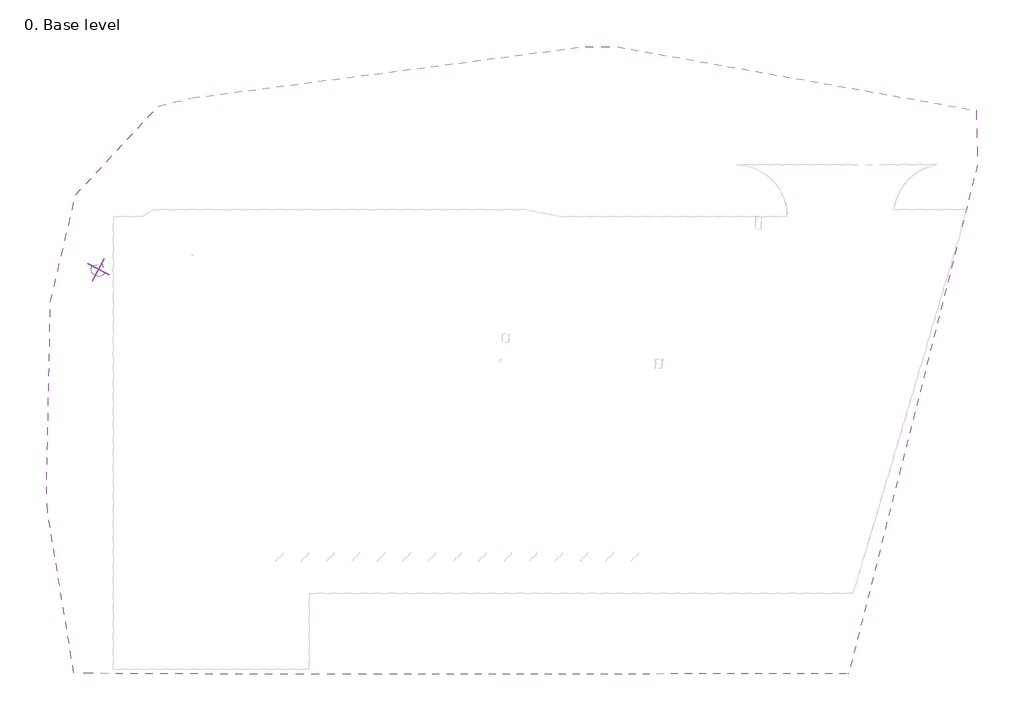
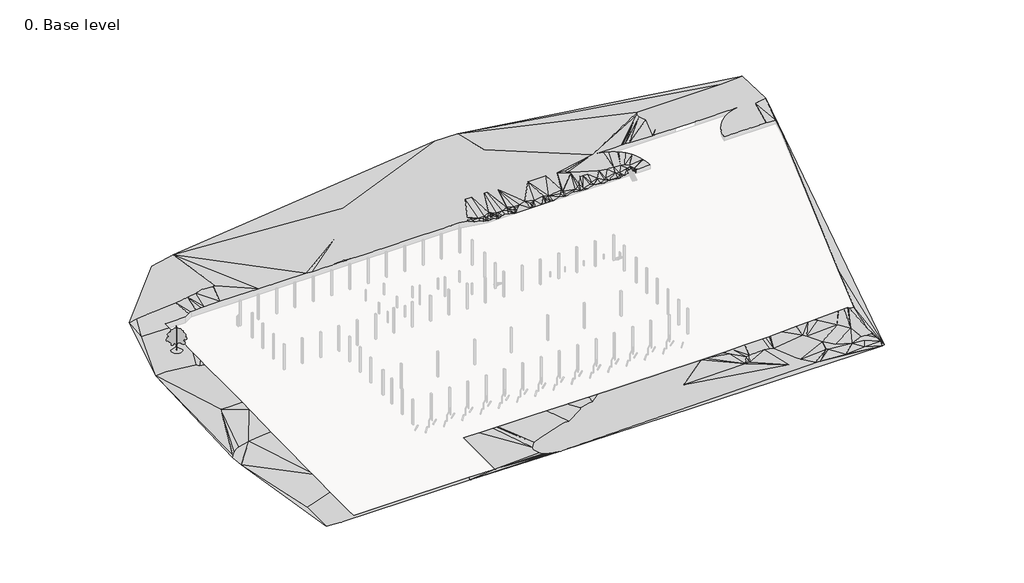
# One storey, part 2 of 3: 1 geographic element, 1 proxy.
"""IFC4 building model written with IfcOpenShell, lengths in millimetres."""

from ifc_helpers import new_model, si_unit, origin, place, context, project, spatial, triangles, transform, mapped, element, save
from components import m_rpc_tree_deciduous_largetooth_aspen_7_6_meters_7a32e79d

model = new_model("IFC4")

# Units and contexts
model_context = context("Model", 3, world=origin())
ifc_project = project(units=[si_unit("LENGTHUNIT", "METRE", prefix="MILLI")], contexts=[model_context])

# Site, building, storey
site = spatial("IfcSite", under=ifc_project)
building = spatial("IfcBuilding", under=site)
storey = spatial("IfcBuildingStorey", under=building, Name="0. Base level", Elevation=0.0)

# Proxy
placement = place(None, origin())
element("IfcBuildingElementProxy", 1, Name="Building Element Proxy", at=placement, inside=storey, context=model_context, shape_type="Tessellation", body=[
    triangles([(-188177.7789551, -19890.58125, 43500.0006226), (-187905.1258301, -24262.0307007, 43500.0006226), (-181745.4459961, -62021.2282471, 42999.998584), (-177193.2587402, -62221.3462646, 42999.998584), (-134925.3643066, -62432.1938599, 42999.998584), (-105429.6112061, -62423.9943604, 42500.0011963), (449.0099113, -62296.6858521, 41999.9991577), (1003.7308846, -62255.5860352, 41999.9991577), (31373.5989441, 57766.2972656, 43999.9980103), (31063.6085632, 70676.4720337, 43999.9980103), (-53493.4976074, 85647.916333, 44500.0000488), (-61096.9497803, 85750.2542725, 44500.0000488), (-153690.2189209, 73640.1748535, 45000.0020874), (-154653.6391846, 73437.8104614, 45000.0020874), (-161818.6250977, 71711.7948853, 45000.0020874), (-181289.6970703, 50789.8579834, 45000.0020874), (-187271.4714844, 25428.294397, 43999.9980103), (-165668.8272949, 45651.9994995, 44617.3603271), (-164166.2027344, 46519.5372437, 44657.8973877), (-163270.8155273, 47036.4917358, 44665.9573608), (-162872.8119141, 47266.27771, 44676.2497559), (-161819.3506348, 47266.27771, 44669.2780884), (-161454.2380371, 47266.27771, 44672.8220581), (-160539.689209, 47266.27771, 44661.3297363), (-159739.1985352, 47266.27771, 44651.2698853), (-158732.0600098, 47266.27771, 44655.1022095), (-153680.0241943, 47266.27771, 44792.5589355), (-148520.8228271, 47266.27771, 44762.2910156), (-148138.1578125, 47266.27771, 44761.1934082), (-140892.4140381, 47266.27771, 44711.656897), (-125287.6735107, 47266.27771, 44551.9503662), (-123264.9690674, 47266.27771, 44515.2084229), (-121419.8537842, 47266.27771, 44500.0000488), (-120607.0010742, 47266.27771, 44500.0000488), (-116852.7744141, 47266.27771, 44500.0000488), (-116081.7796143, 47266.27771, 44500.0000488), (-116011.1420654, 47266.27771, 44500.0000488), (-115715.7926514, 47266.27771, 44492.274939), (-112539.8841797, 47266.27771, 44481.7081421), (-111252.5581055, 47266.27771, 44489.9774048), (-110632.568042, 47266.27771, 44500.0000488), (-105984.1447998, 47266.27771, 44500.0000488), (-103939.3393799, 47266.27771, 44500.0000488), (-102659.7151611, 47266.27771, 44500.0000488), (-99050.3540771, 47266.27771, 44500.0000488), (-90440.6098389, 47266.27771, 44500.0000488), (-89811.1970947, 47266.27771, 44500.0000488), (-81791.5470703, 47266.27771, 44500.0000488), (-80232.3492188, 47266.27771, 44500.0000488), (-78600.4116211, 47266.27771, 44500.0000488), (-77774.7596924, 47266.27771, 44500.0000488), (-77747.1381226, 47266.27771, 44500.0000488), (-77719.8095581, 47266.27771, 44500.0000488), (-77538.606665, 47266.27771, 44500.0000488), (-76997.142041, 47266.27771, 44500.0000488), (-76557.8572266, 47266.27771, 44500.0000488), (-75143.3714722, 47266.27771, 44500.0000488), (-72771.3581177, 46790.1858398, 44500.0000488), (-72635.6175659, 46762.9409912, 44488.1217041), (-70948.1345215, 46424.2453857, 43999.9980103), (-70591.2446777, 46352.6125488, 43915.4636353), (-68998.7186279, 46032.9762451, 43883.6469727), (-67921.5053101, 45816.7661865, 43500.0006226), (-67100.592627, 45651.9994995, 43381.803186), (-66583.9311401, 45651.9994995, 43312.5050903), (-65750.3494629, 45651.9994995, 43313.4073608), (-64911.9634277, 45651.9994995, 43314.3096313), (-63821.7927612, 45651.9994995, 42999.998584), (-63065.1831299, 45651.9994995, 42934.6490845), (-61949.6093628, 45651.9994995, 43309.5564331), (-61172.6428345, 45651.9994995, 43686.1473999), (-59781.127771, 45651.9994995, 43311.9981445), (-57807.8528687, 45651.9994995, 42500.0011963), (-52353.9160034, 45651.9994995, 42500.0011963), (-51750.515625, 45651.9994995, 42500.0011963), (-51465.6167358, 45651.9994995, 42500.0011963), (-51422.3077515, 45651.9994995, 42500.0011963), (-51268.7450317, 45651.9994995, 42500.0011963), (-48687.1723755, 45651.9994995, 42500.0011963), (-47382.1590088, 45651.9994995, 42500.0011963), (-46435.681897, 45651.9994995, 42500.0011963), (-45934.2334351, 45651.9994995, 42500.0011963), (-45320.6290283, 45651.9994995, 42657.3450806), (-43152.1427856, 45651.9994995, 43304.8869507), (-41519.4936035, 45651.9994995, 42922.0638062), (-41347.141333, 45651.9994995, 42941.7695801), (-38831.7762634, 45651.9994995, 43362.9485229), (-36272.0999451, 45651.9994995, 42948.4435913), (-36201.8205139, 45651.9994995, 42952.6247314), (-34172.4676392, 45651.9994995, 42999.998584), (-31801.3960876, 45651.9994995, 43467.3793579), (-28981.9077209, 45651.9994995, 42999.998584), (-28807.4741821, 45651.9994995, 42999.998584), (-28731.664856, 45651.9994995, 42999.998584), (-27089.6488037, 45651.9994995, 43455.2219604), (-23610.0751465, 45651.9994995, 42999.998584), (-23507.7488342, 45651.9994995, 42999.998584), (-23315.3396484, 45651.9994995, 42999.998584), (-22411.8506104, 45651.9994995, 43425.8237549), (-21873.0532654, 45651.9994995, 43371.9898315), (-19500.7376038, 45651.9994995, 43915.8915161), (-18998.1764191, 45651.9994995, 43923.1189819), (-18231.7673859, 45651.9994995, 43055.4603149), (-18175.5359344, 45651.9994995, 42999.998584), (-18152.6280304, 45651.9994995, 43065.1620483), (-18075.9943359, 45651.9994995, 43248.5648071), (-17991.3029938, 45651.9994995, 43541.9980591), (-17916.6389465, 45651.9994995, 43999.9980103), (-17248.7564575, 45651.9994995, 43999.9980103), (-13430.3918518, 45651.9994995, 43999.9980103), (-13493.6263641, 46763.5316528, 43999.9980103), (-13656.8687256, 47864.8318726, 43999.9980103), (-13862.7642975, 48715.459021, 43999.9980103), (-13884.8071381, 48806.52323, 43999.9980103), (-13896.1390045, 48853.3389771, 43999.9980103), (-13918.7887848, 48946.9146606, 44027.35448), (-13941.8699341, 49014.7849365, 44048.1485596), (-13968.1497253, 49092.0639404, 44043.2186279), (-13983.0860229, 49135.9821899, 44038.1538208), (-14277.2494629, 50000.9619507, 44107.8100342), (-14729.3288452, 51018.3742676, 44196.5534546), (-15271.3411102, 51990.8590942, 44288.4315674), (-15496.743631, 52321.1877686, 44322.2946167), (-15898.8655975, 52910.491333, 44337.3076538), (-16606.7875031, 53769.7644653, 44363.1990967), (-16823.6045013, 53989.1789795, 44370.9986206), (-17389.3339233, 54561.6789185, 44356.8459961), (-17666.3146912, 54795.4599976, 44351.1114624), (-18217.6449921, 55260.8036865, 44341.4562378), (-18240.1250153, 55279.7746216, 44341.9306274), (-18421.4813873, 55406.7157104, 44345.8094604), (-19152.2228302, 55918.1961182, 44337.9680786), (-20118.1906128, 56471.7437256, 44330.2104126), (-20699.110968, 56738.1925781, 44326.9547974), (-21130.1520996, 56935.8967896, 44327.7593994), (-22179.8601196, 57306.8741455, 44331.3824341), (-23258.7500793, 57581.6480713, 44336.7123413), (-24358.0271667, 57757.986145, 44343.6979614), (-25468.7314636, 57834.4419434, 44352.2881348), (-19234.5771057, 57834.4419434, 44297.6170532), (-15904.9919678, 57834.4419434, 44283.8458008), (-15394.8917084, 57834.4419434, 44272.2418579), (-14578.3136444, 57834.4419434, 44270.0466431), (-13373.8336761, 57834.4419434, 44268.8699707), (-5669.4126663, 57834.4419434, 44015.062207), (-5434.8014053, 57834.4419434, 43999.9980103), (-5424.3200684, 57834.4419434, 43999.9980103), (-5161.4151855, 57834.4419434, 43999.9980103), (-4880.4980301, 57834.4419434, 43999.9980103), (1792.7232777, 57834.4419434, 43999.9980103), (1818.4890015, 57834.4419434, 43999.9980103), (1819.2808136, 57834.4419434, 43999.9980103), (1820.225378, 57834.4419434, 43999.9980103), (8282.5990906, 57834.4419434, 43999.9980103), (8558.8903656, 57834.4419434, 43999.9980103), (9155.6254532, 57834.4419434, 43999.9980103), (9750.6065781, 57834.4419434, 43999.9980103), (11305.3506317, 57834.4419434, 43999.9980103), (18974.4162415, 57834.4419434, 43999.9980103), (19558.8712646, 57834.4419434, 43999.9980103), (21867.0466553, 57834.4419434, 43999.9980103), (20839.0233582, 57618.7295288, 43999.9980103), (19833.0894104, 57316.3014771, 43999.9980103), (19300.7870178, 57105.3748169, 43999.9980103), (18856.5490173, 56929.3483521, 43999.9980103), (18549.9828461, 56776.5065186, 43999.9980103), (18277.794809, 56640.8078247, 43999.9980103), (17916.487793, 56460.6792847, 43999.9980103), (17019.7297394, 55913.6940674, 43999.9980103), (16803.3801544, 55754.9781738, 43999.9980103), (16503.5565948, 55535.0288086, 43999.9980103), (16172.7837616, 55292.3692017, 43999.9980103), (16063.4195068, 55196.8075928, 43999.9980103), (15381.7959961, 54601.2067383, 43999.9980103), (15273.9560669, 54489.4228638, 43999.9980103), (14652.5079529, 53845.2296265, 43999.9980103), (13990.2123322, 53029.9212524, 43999.9980103), (13701.8473755, 52605.6866821, 43999.9980103), (13399.71698, 52161.1975342, 43999.9980103), (13063.7142334, 51562.9921875, 43999.9980103), (12885.3065186, 51245.3650635, 43999.9980103), (12450.7156036, 50289.0745972, 43999.9980103), (12269.2883057, 49778.3522827, 43999.9980103), (12099.0975311, 49299.2605957, 43999.9980103), (11921.0467712, 48619.3207031, 43999.9980103), (11833.0056335, 48283.108667, 43999.9980103), (11654.3700256, 47247.9997559, 43999.9980103), (13156.9469147, 47247.9997559, 43999.9980103), (14049.9912415, 47247.9997559, 43999.9980103), (15099.1225525, 47247.9997559, 43999.9980103), (15616.2909851, 47247.9997559, 43999.9980103), (17012.8999237, 47247.9997559, 43999.9980103), (17863.4305664, 47247.9997559, 43999.9980103), (19009.2094666, 47247.9997559, 43999.9980103), (20473.3410278, 47247.9997559, 43999.9980103), (20774.5970581, 47247.9997559, 43999.9980103), (21774.6964783, 47247.9997559, 43999.9980103), (23194.9237427, 47247.9997559, 43999.9980103), (23416.0242004, 47247.9997559, 43999.9980103), (24565.6935608, 47247.9997559, 43999.9980103), (25479.5982422, 47247.9997559, 43999.9980103), (28579.0462646, 47247.9997559, 43831.9431519), (27282.2370483, 41630.9007568, 43731.5864868), (7574.9649582, -24672.3661194, 42785.6163208), (2031.8245262, -43321.7417358, 43072.1988281), (194.5065868, -43321.7417358, 43616.7144287), (-34.8357348, -43321.7417358, 43862.4529175), (-1436.6708828, -43321.7417358, 43832.552417), (-3043.3404007, -43321.7417358, 43772.3328369), (-3152.4854828, -43321.7417358, 43772.2770264), (-8967.5706528, -43321.7417358, 43568.0894897), (-10657.2541443, -43321.7417358, 43500.0006226), (-10952.8442413, -43321.7417358, 43500.0006226), (-13191.9401276, -43321.7417358, 43389.2027344), (-17025.4096252, -43321.7417358, 43247.0625732), (-21782.2216003, -43321.7417358, 42999.998584), (-25435.3567566, -43321.7417358, 42834.4738037), (-25876.0531128, -43321.7417358, 42824.5348755), (-26972.228064, -43321.7417358, 42786.2860474), (-28029.1054138, -43321.7417358, 42761.8177734), (-28843.3789673, -43321.7417358, 42755.5669922), (-31385.2935791, -43321.7417358, 42754.7623901), (-33803.1785522, -43321.7417358, 42759.3528076), (-38051.7541077, -43321.7417358, 42610.854895), (-38399.8909973, -43321.7417358, 42599.5672119), (-40954.4350708, -43321.7417358, 42500.0011963), (-46639.8368774, -43321.7417358, 42500.0011963), (-48148.9633667, -43321.7417358, 42500.0011963), (-51065.5109253, -43321.7417358, 42500.0011963), (-55979.2342529, -43321.7417358, 42500.0011963), (-61260.3212036, -43321.7417358, 42500.0011963), (-61306.4951294, -43321.7417358, 42500.0011963), (-63029.9620239, -43321.7417358, 42500.0011963), (-73621.873645, -43321.7417358, 42500.0011963), (-76074.947168, -43321.7417358, 42500.0011963), (-76828.5662842, -43321.7417358, 42500.0011963), (-79252.3997314, -43321.7417358, 42500.0011963), (-82003.3666992, -43321.7417358, 42500.0011963), (-85011.2296143, -43321.7417358, 42556.509375), (-86355.8545166, -43321.7417358, 42559.6952271), (-88180.3478027, -43321.7417358, 42569.7318237), (-91009.5146484, -43321.7417358, 42587.7818848), (-91355.8469971, -43321.7417358, 42590.8886719), (-91980.004248, -43321.7417358, 42594.2187012), (-98769.2084473, -43321.7417358, 42668.1304688), (-99822.4185791, -43321.7417358, 42672.9301758), (-105389.8740967, -43321.7417358, 42712.9928467), (-107518.7302002, -43321.7417358, 42692.1662109), (-113519.9824951, -43321.7417358, 42708.4535889), (-114745.8611572, -43321.7417358, 42716.9553955), (-115213.2279785, -43321.7417358, 42720.6760986), (-115451.5669189, -43321.7417358, 42723.6852173), (-116533.4171631, -43321.7417358, 42739.5168091), (-120921.4935059, -43321.7417358, 42751.2602783), (-126195.9157471, -43321.7417358, 42866.2765137), (-126195.9157471, -60371.794043, 42815.7493652), (-126195.9157471, -60698.1555176, 42813.2192871), (-126195.9157471, -60918.0351196, 42813.8657593), (-126195.9157471, -61246.9871338, 42816.1493408), (-128092.4046387, -61246.9871338, 42854.3051514), (-128958.8354736, -61246.9871338, 42872.3366089), (-129903.9126709, -61246.9871338, 42894.0143555), (-134764.3043701, -61246.9871338, 42999.998584), (-135113.4365479, -61246.9871338, 42999.998584), (-135808.6964355, -61246.9871338, 42999.998584), (-136567.4594238, -61246.9871338, 42999.998584), (-148130.7071045, -61246.9871338, 42999.998584), (-148543.9656006, -61246.9871338, 42999.998584), (-148611.1708008, -61246.9871338, 42999.998584), (-153673.354834, -61246.9871338, 42999.998584), (-153766.3166016, -61246.9871338, 42999.998584), (-158422.3858887, -61246.9871338, 42999.998584), (-158731.0368164, -61246.9871338, 42999.998584), (-167378.1555176, -61246.9871338, 42999.998584), (-169065.2711426, -61246.9871338, 42999.998584), (-172437.4001953, -61246.9871338, 42999.998584), (-172437.4001953, -59835.8825684, 42999.998584), (-172437.4001953, -58997.4732788, 42999.998584), (-172437.4001953, -55508.0676636, 42999.998584), (-172437.4001953, -51504.8934082, 42999.998584), (-172437.4001953, -49523.5771362, 42999.998584), (-172437.4001953, -48712.538269, 42999.998584), (-172437.4001953, -47941.6922974, 42999.998584), (-172437.4001953, -37981.3142212, 43171.7229858), (-172437.4001953, -36755.7146118, 43185.9593262), (-172437.4001953, -14349.7915466, 43499.8424927), (-172437.4001953, -14343.6384338, 43499.9215576), (-172437.4001953, -14339.6607697, 43500.0006226), (-172437.4001953, -2036.8585213, 43876.298584), (-172437.4001953, 1859.9765854, 43999.9980103), (-172437.4001953, 2219.8117435, 43999.9980103), (-172437.4001953, 2565.1230789, 43999.9980103), (-172437.4001953, 5701.0845703, 43999.9980103), (-172437.4001953, 6151.6216049, 43999.9980103), (-172437.4001953, 6954.251683, 43999.9980103), (-172437.4001953, 12055.1164948, 43999.9980103), (-172437.4001953, 12443.5253448, 43999.9980103), (-172437.4001953, 20908.6098083, 43999.9980103), (-172437.4001953, 21067.3815125, 43999.9980103), (-172437.4001953, 22068.5018005, 43999.9980103), (-172437.4001953, 22265.761853, 43999.9980103), (-172437.4001953, 22733.2519226, 43999.9980103), (-172437.4001953, 22824.0998657, 43999.9980103), (-172437.4001953, 23266.1752075, 43999.9980103), (-172437.4001953, 25373.8442322, 44064.7196411), (-172437.4001953, 26467.5100342, 44081.662793), (-172437.4001953, 29970.259021, 44146.8867188), (-172437.4001953, 43484.4806396, 44500.0000488), (-172437.4001953, 45651.9994995, 44632.4384766), (-169416.1706543, 45651.9994995, 44637.0242432), (-166710.2334961, 45651.9994995, 44621.8112183), (-187773.6919922, -22615.0870422, 43500.0006226), (-187582.1129883, -19026.2444733, 43500.0006226), (-186420.1560059, -17710.6468689, 43500.0006226), (-185321.8044434, -16828.6437286, 43500.0006226), (-184298.4622559, 22955.6546265, 43999.9980103), (-184085.1543457, -16194.5568512, 43500.0006226), (-183832.8906738, 25703.7938599, 43999.9980103), (-181759.6776855, -51286.8695068, 42999.998584), (-181754.282666, -51147.3012817, 42999.998584), (-181391.142041, 43706.8345093, 44500.0000488), (-181209.1438477, 14919.2742279, 43999.9980103), (-180280.4377441, 15786.160849, 43999.9980103), (-180119.7033691, -15216.5874756, 43500.0006226), (-179849.6361328, 21254.0561646, 43999.9980103), (-179552.5007813, 1893.6294731, 43999.9980103), (-179110.1835938, 15986.2974701, 43999.9980103), (-178498.4813965, 51425.3494263, 45000.0020874), (-178486.5007324, 15517.9481506, 43999.9980103), (-177857.6460937, 6926.2818787, 43999.9980103), (-177839.2658203, -58229.3062134, 42999.998584), (-177400.3530762, 13714.8221649, 43999.9980103), (-177250.762207, 1630.776186, 43999.9980103), (-176451.5923828, 9880.2992432, 43999.9980103), (-176419.2408691, 11277.8546356, 43999.9980103), (-176403.6697266, -14642.9271423, 43500.0006226), (-176338.2225586, 10801.6511444, 43999.9980103), (-175065.8165039, 51732.8934448, 45000.0020874), (-174872.2841309, 21712.7909546, 43999.9980103), (-174581.34375, 24401.8617004, 43999.9980103), (-174107.1959473, 22635.6857849, 43999.9980103), (-174070.3981934, 23637.8641479, 43999.9980103), (-173960.8979004, 23122.9560425, 43999.9980103), (-173821.2599121, 1685.8465164, 43999.9980103), (-173695.9652344, -61451.9653198, 42999.998584), (-173377.9939453, -62001.4620117, 42999.998584), (-173245.499707, -60000.1190552, 42999.998584), (-173038.5169922, -59584.3444336, 42999.998584), (-172564.2575684, -62059.4817261, 42999.998584), (-172440.3209473, -14340.3363098, 43500.0006226), (-171541.8083496, 57914.4324097, 45000.0020874), (-167535.4854492, -61887.1387573, 42999.998584), (-164930.5467773, 52778.8016968, 45000.0020874), (-163123.7361328, 57799.6115112, 45000.0020874), (-160731.0449707, 57283.1221069, 45000.0020874), (-160713.7809082, 56431.0810913, 45000.0020874), (-160594.6067871, 53288.8170776, 45000.0020874), (-159348.8037598, 72222.084668, 45000.0020874), (-158918.8765137, 56456.63302, 45000.0020874), (-158476.7825684, -61627.3778687, 42999.998584), (-155110.9880127, 54625.6238525, 45000.0020874), (-154738.5735352, 54600.1649414, 45000.0020874), (-153640.5010254, -61918.5275391, 42999.998584), (-152077.7964111, 54459.2758667, 45000.0020874), (-151669.226001, 54340.1203491, 45000.0020874), (-150964.4783203, 54402.5583984, 45000.0020874), (-148291.729834, -62030.9950928, 42999.998584), (-135998.3685791, -62397.0797241, 42999.998584), (-135262.0693359, -62257.8277588, 42999.998584), (-115786.6255371, 47397.4185425, 44500.0000488), (-112590.6438721, 47583.5234619, 44500.0000488), (-111557.2557861, -57790.2958008, 42500.0011963), (-111476.0049316, -58364.8049194, 42500.0011963), (-111253.5719971, 47437.1463501, 44500.0000488), (-111236.0567871, -56840.8421265, 42500.0011963), (-110875.6880859, -60104.2010742, 42500.0011963), (-110314.3083984, -60944.2567749, 42500.0011963), (-109912.0724854, -55223.7780396, 42500.0011963), (-109734.7437744, 58123.7033569, 44500.0000488), (-109618.7043457, -54937.4513306, 42500.0011963), (-109540.2812256, -61433.6362061, 42500.0011963), (-109123.6647949, 57946.5885864, 44500.0000488), (-108577.7260254, 59345.8752686, 44500.0000488), (-107860.9232666, -54156.76875, 42500.0011963), (-107755.7296875, -62022.0421509, 42500.0011963), (-106719.1045898, 61968.9663208, 44500.0000488), (-106499.5458984, 58096.0678345, 44500.0000488), (-105634.7242676, -62265.1110352, 42500.0011963), (-105326.7151611, 63646.2453369, 44500.0000488), (-104191.8728027, 64724.1562866, 44500.0000488), (-103232.4057861, 65228.5301514, 44500.0000488), (-101434.4597168, 65682.6838257, 44500.0000488), (-100238.6164307, 69447.6400635, 44500.0000488), (-100176.1086182, 70095.9772339, 44500.0000488), (-99092.6491699, 66601.2138062, 44500.0000488), (-98746.0098633, 67016.4954346, 44500.0000488), (-98639.2814941, -51041.0705566, 42500.0011963), (-98583.7313965, 68267.7213867, 44500.0000488), (-98538.4225342, 67696.0400024, 44500.0000488), (-97101.9520752, -50718.4297852, 42500.0011963), (-95854.8375, -50902.7673706, 42500.0011963), (-92741.2508057, -52052.3530151, 42500.0011963), (-90519.1817871, -53161.5132202, 42500.0011963), (-89973.2802246, -47222.6943237, 42500.0011963), (-89639.505249, -46711.7301636, 42500.0011963), (-89177.7287842, -49050.5548462, 42500.0011963), (-89026.0543213, -53533.3091309, 42500.0011963), (-88699.2277588, -51605.3942505, 42500.0011963), (-87928.3910889, -53385.9227783, 42500.0011963), (-87879.8359131, -52819.6364136, 42500.0011963), (-86679.2022217, -45901.6633301, 42500.0011963), (-85143.7796631, -45746.463501, 42500.0011963), (-81318.189917, -46098.9815186, 42500.0011963), (-79621.6702148, 48669.9548218, 44500.0000488), (-79413.227124, -46113.8224731, 42500.0011963), (-79085.2750488, 49310.385498, 44500.0000488), (-77720.9955322, 49355.4153076, 44500.0000488), (-77709.2241577, -45736.3292358, 42500.0011963), (-76709.4619263, -44436.6411255, 42500.0011963), (-76507.7486572, 47503.9980835, 44500.0000488), (-73676.5633301, 70409.6092529, 44500.0000488), (-73306.2138428, 57881.4948853, 44500.0000488), (-73267.1743652, 49188.5045654, 44500.0000488), (-72666.1226807, 46880.1617432, 44500.0000488), (-71989.2709717, 47743.1974365, 44500.0000488), (-71746.9229736, 48466.7672241, 44500.0000488), (-71245.809375, 47491.9988159, 44500.0000488), (-70876.2040283, 47166.418689, 43999.9980103), (-70077.345813, 70833.4252441, 44500.0000488), (-68197.4093994, 71664.8256592, 44500.0000488), (-67800.3731689, 56576.7280151, 44500.0000488), (-67502.1681152, 46961.1428467, 43500.0006226), (-67155.3288208, 57223.6838745, 44500.0000488), (-66981.5952393, 57693.9342407, 44500.0000488), (-66891.4519043, 57656.6620972, 44500.0000488), (-66843.0641602, 57789.6865356, 44500.0000488), (-66620.0870728, 72885.4069702, 44500.0000488), (-66302.5297119, 72912.647168, 44500.0000488), (-66099.4630371, 73860.7985962, 44500.0000488), (-65803.4392456, 56456.8423096, 44500.0000488), (-64621.4462769, 75233.482251, 44500.0000488), (-63572.1893921, 75228.4639526, 44500.0000488), (-63363.9276855, 46463.1639404, 42999.998584), (-63330.0041748, 75425.6798218, 44500.0000488), (-62888.8543579, 46787.0371948, 42999.998584), (-62081.6989746, 77764.5091553, 44500.0000488), (-61928.7222656, 56835.7819702, 44500.0000488), (-61556.7914795, 56457.1306641, 44500.0000488), (-61396.805896, 81713.2727783, 44500.0000488), (-61383.4346191, 56867.1847046, 44500.0000488), (-61304.7743042, 81082.9856689, 44500.0000488), (-60741.7528564, 56414.961145, 44500.0000488), (-59445.0599121, -48312.8928955, 42500.0011963), (-59184.2711792, -51329.0948364, 42500.0011963), (-58550.5703247, -51426.702832, 42500.0011963), (-58431.6659546, -50850.4542847, 42500.0011963), (-57592.2892822, 46007.5870972, 42500.0011963), (-57420.2114136, 46101.2464966, 42500.0011963), (-57398.301123, 55951.0127197, 44500.0000488), (-56806.9930298, 46881.0779663, 43500.0006226), (-55390.446936, 47027.3248535, 43999.9980103), (-53366.7472046, 81121.1321777, 44500.0000488), (-53280.7571045, 81613.1300537, 44500.0000488), (-52939.6662964, 78806.4920654, 44500.0000488), (-51686.7706787, 76178.8059448, 44500.0000488), (-50855.5656006, 75118.5404297, 44500.0000488), (-48055.7504517, 55299.7454956, 44500.0000488), (-46043.9523193, 45971.798584, 42500.0011963), (-42230.5292725, 55218.192334, 44500.0000488), (-39616.8515991, -44584.1995605, 42500.0011963), (-38576.25, 54898.9978638, 44500.0000488), (-37825.0260864, -50500.2570557, 41999.9991577), (-36766.5790649, 54612.3362915, 44500.0000488), (-36412.7727539, 54395.5402222, 44500.0000488), (-36333.6985107, -49759.02323, 41999.9991577), (-36327.0965881, -50490.3227783, 41999.9991577), (-36301.2260742, -48345.7792603, 42500.0011963), (-35914.165979, 53714.6468994, 44500.0000488), (-35470.2558655, 52739.808728, 44500.0000488), (-35145.4338318, -48097.8595093, 42500.0011963), (-33888.6617065, 50277.8427246, 44500.0000488), (-33105.1397644, 49906.7956055, 44500.0000488), (-31494.4008728, 49872.6581543, 44500.0000488), (-30167.3330383, -47925.497937, 42500.0011963), (-30013.3238342, 50041.0013672, 44500.0000488), (-29337.7557678, 50271.8989014, 44500.0000488), (-28525.9378784, -48161.8369995, 42500.0011963), (-27976.808606, 49811.6572266, 44500.0000488), (-27845.0050232, -57868.1654663, 42500.0011963), (-27439.8088257, -48609.4468872, 42500.0011963), (-26411.9762146, -58047.6893921, 42500.0011963), (-26382.9291504, -58203.3682617, 42500.0011963), (-26254.9764954, -57913.074353, 42500.0011963), (-26192.5663513, -57083.0040894, 42500.0011963), (-25943.4722534, -58191.8061768, 42500.0011963), (-25494.4950073, 49295.870105, 44500.0000488), (-24683.709613, 49365.3774902, 44500.0000488), (-24500.5603271, -58590.5492798, 42500.0011963), (-24450.6680237, -55520.2715698, 42500.0011963), (-24299.6470093, 46710.5209351, 44500.0000488), (-23502.3445129, -57038.197522, 42500.0011963), (-21180.9838806, 49132.2568359, 44500.0000488), (-20646.7583496, -60406.5221558, 42500.0011963), (-20311.8787903, 46878.975769, 44500.0000488), (-20094.8106445, 48624.5994507, 44500.0000488), (-19332.1606842, 47110.2500244, 44500.0000488), (-19220.5151733, -60841.1095825, 42500.0011963), (-19135.1285248, 47874.5196533, 44500.0000488), (-19106.0570435, 47350.0958496, 44500.0000488), (-18359.752597, 46019.2468506, 42999.998584), (-18315.6785431, 46233.0524048, 43500.0006226), (-18248.6372864, 46427.3568237, 43999.9980103), (-17999.2059998, 45699.6477539, 43500.0006226), (-17927.0266846, 46120.7383301, 43999.9980103), (-17341.4438232, -47688.5821655, 42999.998584), (-16570.2327576, -48695.0044556, 42999.998584), (-15153.9657166, -57071.4513062, 42999.998584), (-14658.4203827, -57474.6546021, 42999.998584), (-14158.0392975, -53303.0022583, 42999.998584), (-12896.9988281, -54644.4552612, 42999.998584), (-12013.5771698, -57021.4264526, 42999.998584), (-11732.7989594, -56282.3459839, 42999.998584), (-11161.736142, -61297.1608154, 42500.0011963), (-10350.3717133, -44029.7310791, 43500.0006226), (-6686.9145126, -48691.1767822, 43500.0006226), (-5187.6682343, 58104.7045166, 43999.9980103), (-4773.3385826, -60759.0076172, 42500.0011963), (-4377.0101578, 68955.7910156, 43999.9980103), (-4295.1895706, -52236.5464233, 43500.0006226), (-4291.8104164, 67957.6565918, 43999.9980103), (-3629.5383408, 70072.9739868, 43999.9980103), (-3593.5289108, -57082.1948364, 43500.0006226), (-3517.8657967, 59940.2343384, 43999.9980103), (-3447.1666237, 65553.0266235, 43999.9980103), (-2846.0451759, 60400.2574219, 43999.9980103), (-2345.0301178, 61101.7866943, 43999.9980103), (-2294.3832092, 63096.8742188, 43999.9980103), (-2133.9616058, 61934.8660767, 43999.9980103), (-1019.5324636, -56514.666687, 43500.0006226), (-725.7240166, -56631.4735107, 43500.0006226), (-636.1292673, -56078.3258789, 43500.0006226), (-590.2828651, -57491.7744873, 43500.0006226), (-133.6330768, -55150.1871826, 43500.0006226), (-117.2682963, -57068.1817383, 43500.0006226), (-66.5561619, -57440.6520264, 43500.0006226), (61.6382889, -59092.8488525, 42999.998584), (442.108334, -60692.9279297, 42500.0011963), (16613.0185181, 55502.3005737, 43999.9980103), (18492.6212311, 56633.5338501, 43999.9980103), (19116.2529327, 56218.3777954, 43999.9980103), (19251.3679413, 56965.7693848, 43999.9980103), (22180.3670654, 57780.3940796, 43999.9980103), (23176.2062805, 57090.7524536, 43999.9980103), (23942.2757996, 70217.2163452, 43999.9980103), (24046.5159485, 57203.5874268, 43999.9980103), (25765.664502, 57848.436438, 43999.9980103), (27588.146283, 57200.1922852, 43999.9980103), (27813.9976135, 57515.6241943, 43999.9980103), (28118.4371704, 57155.5531494, 43999.9980103), (29124.4850647, 57518.4937866, 43999.9980103), (30809.3822205, 70457.2016968, 43999.9980103), (-157912.3891113, 55528.3501465, 45000.0020874), (-157666.5808594, 53944.4886841, 45000.0020874), (-89902.8752197, 57988.7813599, 44500.0000488), (-47772.7258667, 47101.2598755, 44500.0000488), (-63133.3231567, 47096.8740967, 43999.9980103), (-62154.5828979, 46921.1080811, 43500.0006226), (-40624.3017334, 46403.1443481, 42999.998584), (-51732.0841919, 46036.5248657, 42500.0011963), (-37561.3375305, 46557.0651855, 43500.0006226), (-36819.5409485, 46727.3385132, 43999.9980103), (-27049.9907593, -57890.6199097, 42500.0011963), (-23337.7382812, 49214.0657959, 44500.0000488), (-18157.4416901, 45966.3524048, 43500.0006226), (-13583.7720245, -57046.4388794, 42999.998584), (-7298.3911423, -58283.7540527, 42999.998584), (-2657.3610535, -54375.6065552, 43500.0006226), (-1855.3986671, -57075.1906128, 43500.0006226), (28569.6305603, 57807.3691772, 43999.9980103), (-159313.0850098, 55979.7132935, 45000.0020874), (-59509.2699463, 47296.6293457, 44500.0000488), (-67004.7612671, 47131.6440674, 43999.9980103), (-64828.377832, 46941.1254639, 43500.0006226), (-59261.8850464, 47062.0994751, 43999.9980103), (-51756.5757202, 46595.0907715, 42999.998584), (-47184.1664429, 46719.0692505, 43500.0006226), (-46104.995105, 46877.3293579, 43999.9980103), (-48888.0159302, 46004.1593994, 42500.0011963), (-36036.1887634, 46905.8904053, 44500.0000488), (-29492.0277466, 46211.1979248, 42999.998584), (-27938.5086182, 46395.0611206, 43500.0006226), (-27534.0891174, 46577.3476685, 43999.9980103), (-27128.4906189, -57957.9274292, 42500.0011963), (-24416.1166443, 49254.965625, 44500.0000488), (-10978.4054718, -57879.202002, 42999.998584), (-3618.3762314, -58688.3014526, 42999.998584), (-2091.905888, -57286.9823364, 43500.0006226), (-986.3334726, -57071.6838501, 43500.0006226), (28469.2413391, 57517.056665, 43999.9980103), (-65377.5396606, 47394.3164062, 44500.0000488), (-68940.4803223, 47149.0337036, 43999.9980103), (-66165.2729736, 46951.1341553, 43500.0006226), (-65069.0422119, 47114.259082, 43999.9980103), (-63491.4780396, 46931.1167725, 43500.0006226), (-61197.6041016, 47079.4844604, 43999.9980103), (-57322.7150391, 46691.0663086, 42999.998584), (-59480.7879639, 46901.0906982, 43500.0006226), (-53641.0002319, 47198.946936, 44500.0000488), (-57326.1659912, 47044.7098389, 43999.9980103), (-51995.5797363, 46800.0736084, 43500.0006226), (-50747.7210205, 46952.3294312, 43999.9980103), (-46190.4410522, 46499.1152344, 42999.998584), (-47465.9817993, 45987.9789917, 42500.0011963), (-41904.4561523, 47003.5774658, 44500.0000488), (-42372.7531494, 46638.0695435, 43500.0006226), (-41462.2691895, 46802.3339355, 43999.9980103), (-35058.16474, 46307.168811, 42999.998584), (-32749.9219116, 46476.0608276, 43500.0006226), (-32176.815033, 46652.3430908, 43999.9980103), (-30167.9167236, 46808.2079956, 44500.0000488), (-23925.8907532, 46115.2223877, 42999.998584), (-23127.0929993, 46314.0567627, 43500.0006226), (-22891.3632019, 46502.3522461, 43999.9980103), (-26770.2334167, -58002.8084106, 42500.0011963), (-12818.4129272, -57676.9306274, 42999.998584)], [[3, 4, 331], [280, 320, 319], [331, 319, 3], [4, 347, 331], [3, 319, 2], [345, 346, 276], [349, 346, 4], [345, 276, 347], [348, 347, 277], [347, 348, 331], [345, 347, 4], [279, 331, 348], [346, 345, 4], [352, 349, 363], [331, 280, 319], [2, 312, 1], [314, 312, 315], [312, 313, 1], [313, 312, 314], [313, 314, 326], [1, 313, 17], [312, 2, 324], [324, 317, 312], [285, 324, 2], [312, 317, 315], [324, 285, 336], [324, 336, 289], [317, 324, 326], [284, 2, 320], [315, 317, 326], [2, 319, 320], [314, 315, 326], [346, 349, 276], [349, 275, 276], [275, 349, 352], [274, 275, 352], [352, 273, 274], [278, 348, 277], [273, 360, 272], [360, 273, 352], [271, 272, 360], [363, 270, 271], [271, 360, 363], [360, 352, 363], [279, 280, 331], [281, 282, 320], [281, 320, 280], [283, 320, 282], [285, 2, 284], [336, 286, 350], [336, 285, 286], [320, 283, 284], [348, 278, 279], [277, 347, 276], [349, 4, 367], [350, 286, 287], [326, 330, 322], [330, 326, 333], [322, 329, 323], [332, 329, 322], [322, 330, 334], [326, 322, 17], [335, 322, 334], [337, 296, 335], [335, 332, 322], [335, 334, 337], [335, 297, 332], [298, 329, 332], [296, 337, 334], [295, 334, 330], [326, 289, 333], [339, 329, 298], [323, 327, 325], [327, 323, 329], [316, 318, 17], [17, 322, 316], [325, 316, 323], [325, 318, 316], [327, 339, 325], [316, 322, 323], [339, 341, 340], [339, 327, 329], [341, 342, 340], [342, 341, 343], [342, 343, 304], [340, 342, 305], [343, 341, 302], [339, 340, 325], [339, 299, 341], [325, 340, 318], [344, 330, 333], [326, 17, 313], [350, 288, 289], [288, 350, 287], [344, 289, 290], [344, 333, 289], [344, 290, 291], [326, 324, 289], [293, 344, 292], [295, 330, 294], [293, 294, 330], [292, 344, 291], [295, 296, 334], [303, 343, 302], [301, 302, 341], [303, 304, 343], [305, 342, 304], [298, 332, 297], [301, 341, 300], [298, 299, 339], [299, 300, 341], [297, 335, 296], [344, 293, 330], [336, 350, 289], [306, 340, 305], [363, 367, 269], [363, 349, 367], [268, 269, 367], [367, 267, 268], [368, 5, 369], [367, 4, 368], [266, 267, 367], [265, 266, 368], [369, 265, 368], [369, 5, 263], [266, 367, 368], [4, 5, 368], [264, 265, 369], [262, 263, 5], [262, 5, 261], [264, 369, 263], [260, 261, 5], [257, 373, 256], [258, 373, 257], [258, 259, 373], [259, 260, 5], [5, 385, 259], [378, 373, 376], [377, 376, 259], [372, 373, 375], [373, 372, 256], [378, 375, 373], [372, 375, 256], [376, 377, 381], [376, 373, 259], [384, 385, 388], [6, 388, 385], [378, 381, 385], [381, 378, 376], [385, 381, 259], [384, 378, 385], [384, 388, 397], [6, 385, 5], [377, 259, 381], [256, 375, 254], [380, 250, 378], [380, 378, 384], [408, 402, 403], [388, 6, 397], [6, 403, 402], [408, 403, 407], [6, 407, 403], [397, 6, 402], [410, 408, 407], [415, 410, 409], [408, 410, 412], [409, 6, 454], [454, 455, 456], [454, 418, 409], [407, 6, 409], [410, 407, 409], [455, 454, 6], [402, 408, 406], [6, 489, 455], [253, 375, 378], [384, 249, 380], [255, 256, 254], [253, 378, 252], [375, 253, 254], [397, 401, 400], [397, 402, 401], [404, 244, 401], [401, 245, 400], [405, 404, 406], [397, 400, 245], [402, 404, 401], [251, 252, 378], [397, 247, 384], [405, 244, 404], [250, 380, 249], [247, 248, 384], [248, 249, 384], [378, 250, 251], [246, 397, 245], [405, 243, 244], [244, 245, 401], [247, 397, 246], [242, 243, 405], [405, 241, 242], [413, 412, 410], [410, 415, 413], [406, 412, 411], [406, 408, 412], [413, 238, 412], [240, 411, 412], [237, 413, 415], [411, 241, 405], [454, 234, 418], [418, 234, 419], [233, 454, 453], [232, 453, 231], [415, 418, 237], [230, 231, 453], [418, 415, 409], [402, 406, 404], [237, 418, 419], [239, 240, 412], [413, 237, 238], [412, 238, 239], [241, 411, 240], [419, 234, 235], [419, 236, 237], [236, 419, 235], [233, 234, 454], [453, 232, 233], [411, 405, 406], [453, 454, 456], [455, 228, 456], [269, 270, 363], [321, 307, 308], [307, 321, 318], [321, 309, 328], [309, 321, 308], [321, 16, 17], [307, 318, 340], [311, 18, 19], [353, 310, 311], [340, 306, 307], [338, 309, 310], [353, 311, 19], [357, 22, 23], [357, 21, 22], [353, 19, 20], [365, 27, 28], [357, 25, 26], [357, 24, 25], [26, 27, 563], [357, 23, 24], [21, 353, 20], [374, 40, 41], [370, 38, 371], [37, 38, 370], [39, 40, 374], [387, 43, 44], [43, 387, 42], [42, 382, 41], [41, 382, 374], [387, 44, 45], [379, 32, 33], [13, 30, 31], [366, 29, 30], [31, 32, 379], [35, 36, 370], [34, 35, 379], [36, 37, 370], [35, 370, 379], [33, 34, 379], [371, 38, 39], [28, 29, 366], [45, 46, 564], [371, 39, 374], [16, 328, 351], [16, 321, 328], [351, 328, 338], [353, 338, 310], [21, 357, 353], [353, 351, 338], [580, 357, 563], [27, 362, 361], [359, 562, 361], [361, 562, 563], [361, 563, 27], [359, 361, 362], [357, 26, 563], [353, 357, 356], [328, 309, 338], [580, 563, 562], [355, 356, 359], [356, 355, 354], [351, 354, 15], [351, 353, 354], [15, 354, 355], [351, 15, 16], [355, 358, 15], [353, 356, 354], [359, 358, 355], [359, 580, 562], [359, 14, 358], [359, 362, 14], [358, 14, 15], [14, 364, 13], [359, 356, 580], [357, 580, 356], [14, 362, 364], [28, 366, 365], [365, 364, 27], [13, 366, 30], [366, 364, 365], [31, 379, 13], [13, 379, 386], [374, 379, 371], [364, 362, 27], [382, 379, 374], [42, 387, 382], [383, 387, 386], [387, 383, 382], [389, 386, 387], [383, 386, 379], [387, 564, 392], [382, 383, 379], [45, 564, 387], [13, 386, 389], [394, 389, 390], [390, 389, 391], [391, 392, 393], [392, 391, 389], [393, 392, 395], [390, 391, 394], [387, 392, 389], [393, 394, 391], [395, 396, 399], [396, 395, 564], [398, 394, 393], [393, 399, 398], [398, 399, 564], [394, 398, 421], [396, 564, 399], [393, 395, 399], [564, 395, 392], [394, 13, 389], [564, 421, 398], [366, 13, 364], [379, 370, 371], [13, 394, 12], [46, 47, 564], [321, 17, 318], [425, 424, 59], [424, 58, 59], [60, 427, 59], [63, 64, 432], [601, 62, 63], [61, 62, 601], [61, 428, 60], [64, 65, 582], [417, 50, 51], [417, 52, 53], [52, 417, 51], [53, 54, 417], [432, 582, 601], [582, 432, 64], [427, 60, 428], [424, 423, 58], [428, 61, 601], [601, 427, 428], [431, 601, 582], [63, 432, 601], [55, 417, 54], [65, 602, 582], [583, 66, 67], [68, 69, 443], [445, 443, 69], [67, 68, 583], [443, 583, 68], [70, 71, 605], [607, 72, 73], [458, 457, 73], [71, 72, 605], [69, 70, 445], [457, 584, 73], [583, 604, 603], [583, 443, 604], [603, 602, 66], [600, 603, 604], [566, 600, 604], [582, 602, 600], [604, 445, 566], [66, 583, 603], [70, 567, 445], [72, 607, 605], [605, 567, 70], [581, 605, 607], [566, 605, 448], [567, 605, 566], [607, 73, 584], [445, 567, 566], [445, 604, 443], [602, 603, 600], [584, 609, 581], [66, 602, 65], [584, 581, 607], [414, 48, 49], [56, 420, 55], [416, 564, 48], [414, 49, 50], [425, 423, 424], [59, 427, 425], [420, 57, 423], [423, 57, 58], [426, 425, 427], [55, 420, 417], [601, 431, 426], [57, 420, 56], [426, 423, 425], [564, 416, 422], [414, 50, 416], [564, 422, 421], [422, 417, 423], [421, 422, 429], [422, 416, 417], [416, 50, 417], [416, 48, 414], [431, 434, 422], [423, 426, 431], [430, 429, 436], [436, 429, 422], [431, 433, 434], [421, 429, 439], [431, 440, 433], [431, 422, 423], [420, 423, 417], [439, 429, 430], [426, 427, 601], [47, 48, 564], [440, 600, 448], [435, 433, 440], [434, 435, 436], [434, 433, 435], [436, 435, 440], [430, 436, 447], [440, 447, 436], [431, 582, 440], [452, 581, 459], [452, 448, 605], [447, 448, 450], [447, 440, 448], [450, 448, 452], [447, 438, 430], [442, 450, 466], [600, 566, 448], [582, 600, 440], [438, 447, 450], [437, 438, 439], [437, 430, 438], [439, 442, 441], [442, 439, 438], [441, 442, 444], [439, 441, 449], [450, 442, 438], [439, 12, 421], [446, 449, 441], [465, 446, 444], [12, 449, 11], [451, 449, 446], [450, 452, 459], [12, 439, 449], [451, 446, 464], [441, 444, 446], [442, 466, 444], [439, 430, 437], [449, 451, 462], [436, 422, 434], [452, 605, 581], [421, 12, 394], [584, 457, 606], [453, 456, 230], [470, 224, 225], [224, 470, 477], [225, 226, 470], [472, 470, 227], [472, 476, 475], [476, 472, 489], [475, 480, 477], [480, 475, 476], [477, 480, 224], [475, 477, 472], [476, 484, 480], [472, 477, 470], [470, 226, 227], [461, 73, 74], [76, 77, 569], [75, 76, 569], [74, 75, 569], [230, 456, 229], [78, 79, 588], [228, 229, 456], [472, 227, 228], [77, 78, 569], [224, 480, 223], [472, 228, 455], [572, 624, 494], [491, 624, 492], [489, 593, 572], [593, 489, 492], [572, 593, 624], [489, 572, 494], [624, 491, 493], [624, 593, 492], [492, 498, 495], [498, 492, 503], [493, 495, 494], [495, 493, 492], [494, 495, 498], [494, 624, 493], [494, 499, 490], [493, 491, 492], [489, 503, 492], [489, 494, 490], [484, 487, 221], [484, 489, 487], [222, 223, 484], [221, 222, 484], [487, 220, 221], [223, 480, 484], [490, 217, 218], [216, 217, 490], [220, 487, 219], [218, 219, 490], [219, 487, 490], [489, 490, 487], [484, 476, 489], [455, 489, 472], [80, 81, 613], [565, 588, 613], [588, 79, 613], [613, 81, 586], [78, 611, 569], [82, 83, 468], [84, 587, 83], [83, 612, 468], [615, 84, 85], [82, 468, 81], [612, 81, 468], [73, 461, 458], [74, 569, 610], [458, 460, 606], [610, 569, 585], [610, 585, 611], [608, 74, 610], [611, 585, 569], [606, 609, 584], [83, 587, 612], [586, 81, 612], [612, 587, 586], [614, 587, 615], [616, 614, 615], [586, 565, 613], [615, 85, 616], [588, 611, 78], [615, 587, 84], [565, 586, 587], [85, 86, 616], [80, 613, 79], [86, 87, 568], [89, 90, 617], [571, 88, 589], [87, 88, 570], [91, 92, 590], [94, 95, 591], [93, 94, 590], [92, 93, 590], [90, 91, 618], [87, 570, 568], [88, 89, 589], [571, 570, 88], [89, 617, 589], [618, 482, 617], [570, 479, 616], [90, 618, 617], [570, 616, 568], [590, 591, 620], [591, 590, 94], [620, 619, 91], [488, 620, 591], [592, 488, 591], [619, 482, 618], [591, 95, 592], [619, 618, 91], [91, 590, 620], [479, 570, 571], [95, 500, 592], [86, 568, 616], [483, 619, 620], [498, 501, 494], [503, 507, 517], [507, 503, 6], [517, 518, 575], [518, 517, 507], [507, 523, 518], [503, 517, 501], [523, 576, 595], [576, 523, 527], [521, 575, 625], [575, 518, 625], [595, 625, 523], [595, 521, 625], [595, 576, 522], [625, 518, 523], [507, 7, 523], [517, 575, 520], [499, 501, 519], [501, 499, 494], [499, 516, 515], [516, 499, 519], [516, 519, 525], [214, 515, 516], [517, 519, 501], [515, 216, 490], [522, 520, 575], [521, 595, 522], [525, 524, 516], [529, 525, 520], [211, 524, 525], [525, 519, 520], [520, 522, 529], [520, 519, 517], [522, 575, 521], [214, 516, 524], [522, 576, 529], [503, 501, 498], [596, 532, 576], [546, 597, 596], [597, 578, 532], [597, 532, 596], [546, 542, 597], [542, 598, 597], [596, 527, 547], [532, 529, 576], [7, 8, 547], [545, 546, 547], [546, 545, 542], [546, 596, 547], [545, 547, 8], [8, 543, 545], [547, 527, 7], [527, 523, 7], [545, 544, 542], [578, 598, 539], [598, 578, 597], [577, 529, 532], [577, 578, 539], [577, 539, 541], [529, 577, 543], [598, 540, 539], [577, 532, 578], [540, 544, 541], [544, 540, 598], [529, 543, 206], [543, 541, 544], [543, 544, 545], [543, 577, 541], [8, 205, 543], [540, 541, 539], [598, 542, 544], [525, 529, 208], [8, 204, 205], [576, 527, 596], [507, 6, 7], [543, 205, 206], [96, 97, 621], [98, 99, 622], [97, 98, 622], [102, 103, 510], [506, 101, 102], [623, 100, 504], [621, 95, 96], [99, 100, 623], [622, 99, 623], [622, 621, 97], [500, 622, 623], [622, 500, 621], [102, 510, 511], [623, 573, 500], [506, 102, 511], [500, 95, 621], [104, 105, 574], [512, 511, 514], [511, 510, 574], [514, 511, 574], [100, 101, 504], [105, 513, 574], [510, 103, 574], [103, 104, 574], [506, 511, 512], [211, 212, 524], [214, 215, 515], [213, 214, 524], [212, 213, 524], [206, 207, 529], [209, 210, 525], [208, 209, 525], [207, 208, 529], [211, 525, 210], [106, 107, 513], [513, 108, 514], [108, 513, 107], [514, 108, 109], [514, 574, 513], [513, 105, 106], [203, 204, 8], [109, 110, 111], [514, 109, 113], [512, 514, 113], [216, 515, 215], [496, 592, 500], [8, 9, 203], [490, 499, 515], [489, 6, 503], [111, 112, 109], [460, 461, 609], [461, 74, 608], [461, 608, 459], [461, 459, 609], [460, 458, 461], [460, 609, 606], [469, 587, 614], [610, 611, 608], [467, 587, 469], [565, 611, 588], [471, 616, 479], [467, 611, 565], [592, 496, 488], [608, 611, 467], [571, 589, 479], [496, 500, 594], [482, 483, 481], [617, 482, 481], [479, 481, 483], [616, 471, 614], [481, 479, 589], [478, 479, 486], [479, 483, 485], [481, 589, 617], [488, 496, 139], [497, 496, 594], [485, 488, 486], [619, 483, 482], [139, 486, 488], [485, 486, 479], [478, 486, 139], [485, 483, 620], [485, 620, 488], [139, 496, 497], [594, 573, 497], [478, 471, 479], [504, 506, 508], [504, 101, 506], [504, 508, 505], [508, 506, 509], [509, 512, 508], [123, 505, 508], [512, 509, 506], [504, 505, 502], [512, 113, 114], [118, 119, 512], [118, 512, 115], [115, 512, 114], [109, 112, 113], [116, 117, 115], [134, 573, 502], [573, 623, 502], [505, 126, 502], [124, 505, 123], [122, 123, 508], [497, 573, 136], [508, 119, 120], [121, 122, 508], [120, 121, 508], [512, 119, 508], [115, 117, 118], [573, 594, 500], [504, 502, 623], [124, 125, 505], [466, 469, 471], [471, 469, 614], [466, 459, 467], [459, 608, 467], [466, 467, 469], [467, 565, 587], [139, 473, 474], [473, 471, 478], [502, 133, 134], [573, 134, 135], [474, 478, 139], [471, 473, 139], [478, 474, 473], [136, 573, 135], [464, 465, 463], [464, 446, 465], [449, 463, 11], [449, 462, 463], [463, 462, 464], [466, 11, 463], [463, 465, 466], [462, 451, 464], [138, 497, 137], [139, 531, 466], [139, 466, 471], [497, 138, 139], [11, 466, 531], [136, 137, 497], [444, 466, 465], [466, 450, 459], [129, 130, 131], [131, 502, 129], [133, 502, 132], [132, 502, 131], [128, 502, 127], [502, 128, 129], [502, 126, 127], [140, 141, 528], [142, 143, 528], [145, 146, 526], [530, 143, 144], [528, 143, 530], [147, 148, 526], [533, 145, 526], [149, 526, 148], [533, 526, 149], [145, 534, 144], [526, 146, 147], [142, 528, 141], [528, 139, 140], [125, 126, 505], [528, 531, 139], [459, 581, 609], [185, 186, 188], [188, 184, 185], [188, 186, 187], [189, 183, 184], [190, 182, 189], [189, 182, 183], [181, 190, 191], [189, 184, 188], [182, 190, 181], [191, 179, 180], [179, 191, 178], [191, 180, 181], [177, 178, 192], [175, 194, 174], [177, 192, 176], [193, 175, 176], [174, 548, 173], [192, 178, 191], [175, 193, 194], [195, 196, 550], [194, 195, 550], [194, 548, 174], [550, 197, 553], [553, 199, 200], [553, 198, 199], [553, 197, 198], [196, 197, 550], [172, 548, 171], [173, 548, 172], [170, 171, 548], [169, 170, 548], [548, 550, 169], [557, 201, 202], [550, 168, 169], [168, 549, 167], [549, 168, 550], [167, 549, 166], [550, 165, 549], [548, 194, 550], [200, 201, 555], [193, 176, 192], [538, 150, 151], [153, 154, 537], [538, 151, 152], [538, 152, 153], [166, 549, 165], [156, 157, 531], [155, 156, 531], [154, 155, 531], [534, 533, 537], [533, 150, 535], [530, 534, 531], [530, 144, 534], [537, 531, 534], [530, 531, 528], [538, 533, 535], [534, 145, 533], [157, 158, 554], [538, 537, 533], [536, 150, 538], [538, 153, 537], [538, 535, 536], [537, 154, 531], [536, 535, 150], [157, 554, 531], [554, 158, 159], [533, 149, 150], [550, 163, 551], [550, 551, 165], [551, 163, 164], [163, 550, 162], [555, 552, 553], [200, 555, 553], [557, 559, 558], [555, 201, 557], [559, 599, 558], [599, 559, 560], [599, 560, 579], [558, 599, 579], [202, 560, 559], [555, 557, 556], [550, 553, 162], [558, 556, 557], [553, 161, 162], [553, 552, 161], [160, 161, 554], [554, 161, 552], [554, 159, 160], [552, 556, 554], [579, 9, 561], [552, 555, 556], [561, 554, 579], [561, 9, 10], [561, 10, 554], [579, 554, 556], [558, 579, 556], [560, 9, 579], [10, 11, 554], [202, 9, 560], [164, 165, 551], [559, 557, 202], [554, 11, 531], [202, 203, 9], [457, 458, 606]], closed=False),
])

# Geographic element
m_rpc_tree_deciduous_largetooth_aspen_7_6_meters_shape = m_rpc_tree_deciduous_largetooth_aspen_7_6_meters_7a32e79d(model_context)
element("IfcGeographicElement", 2, ObjectType="M_RPC Tree - Deciduous : Largetooth Aspen - 7.6 Meters", at=placement, inside=storey, context=model_context, shape_type="MappedRepresentation", body=[
    mapped(m_rpc_tree_deciduous_largetooth_aspen_7_6_meters_shape, transform((-175904.9425322, 33179.3607566, 44282.5859644), x_axis=(0.8837420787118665, -0.4679742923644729, 0.0), y_axis=(0.4679742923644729, 0.8837420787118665, 0.0), z_axis=(0.0, 0.0, 1.0))),
])

save(model, "model.ifc")
